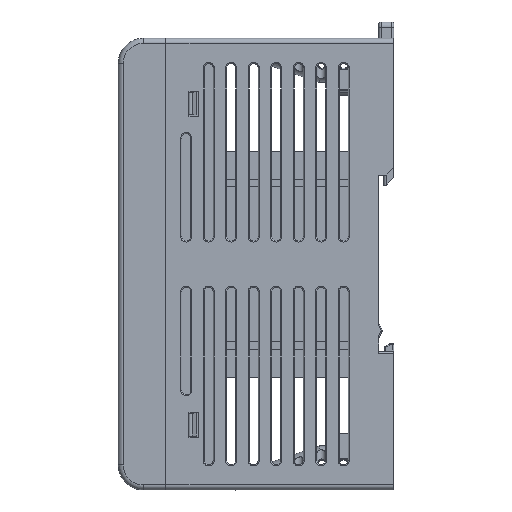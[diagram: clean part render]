
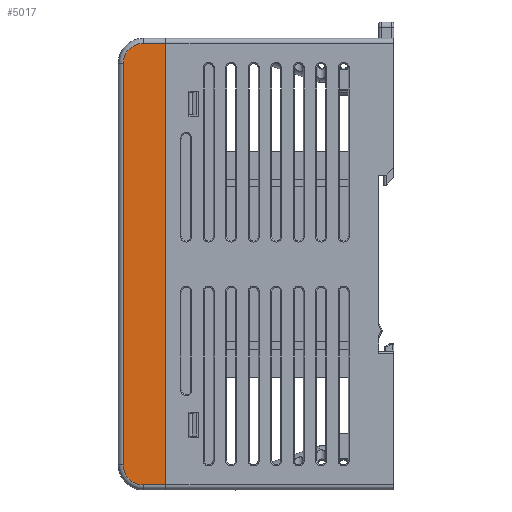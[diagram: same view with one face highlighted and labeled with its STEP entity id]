
A CAD part, left-side view. The second image highlights one B-rep face of the part: STEP entity #5017.
In plain terms, the highlighted planar face has unit normal (-1, 0, 0).
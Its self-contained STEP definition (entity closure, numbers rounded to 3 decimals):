
#52=DIRECTION('',(0.,0.,1.));
#53=VECTOR('',#52,88.);
#54=CARTESIAN_POINT('',(-12.5,0.,-44.));
#55=LINE('',#54,#53);
#202=DIRECTION('',(0.,-1.,0.));
#203=VECTOR('',#202,4.4);
#204=CARTESIAN_POINT('',(-12.5,4.4,-44.));
#205=LINE('',#204,#203);
#209=CARTESIAN_POINT('',(-12.5,4.4,-40.));
#210=DIRECTION('',(-1.,0.,0.));
#211=DIRECTION('',(0.,1.,0.));
#212=AXIS2_PLACEMENT_3D('',#209,#210,#211);
#217=DIRECTION('',(0.,0.,-1.));
#218=VECTOR('',#217,80.);
#219=CARTESIAN_POINT('',(-12.5,8.4,40.));
#220=LINE('',#219,#218);
#224=CARTESIAN_POINT('',(-12.5,4.4,40.));
#225=DIRECTION('',(-1.,0.,0.));
#226=DIRECTION('',(0.,0.,1.));
#227=AXIS2_PLACEMENT_3D('',#224,#225,#226);
#232=DIRECTION('',(0.,1.,0.));
#233=VECTOR('',#232,4.4);
#234=CARTESIAN_POINT('',(-12.5,0.,44.));
#235=LINE('',#234,#233);
#4379=CARTESIAN_POINT('',(-12.5,0.,-44.));
#4381=VERTEX_POINT('',#4379);
#4385=CARTESIAN_POINT('',(-12.5,4.4,-44.));
#4386=VERTEX_POINT('',#4385);
#4387=CARTESIAN_POINT('',(-12.5,8.4,-40.));
#4388=VERTEX_POINT('',#4387);
#4391=CARTESIAN_POINT('',(-12.5,8.4,40.));
#4392=VERTEX_POINT('',#4391);
#4395=CARTESIAN_POINT('',(-12.5,4.4,44.));
#4396=VERTEX_POINT('',#4395);
#4400=CARTESIAN_POINT('',(-12.5,0.,44.));
#4402=VERTEX_POINT('',#4400);
#5000=CARTESIAN_POINT('',(-12.5,0.,-45.));
#5001=DIRECTION('',(-1.,0.,0.));
#5002=DIRECTION('',(0.,0.,1.));
#5003=AXIS2_PLACEMENT_3D('',#5000,#5001,#5002);
#5004=PLANE('',#5003);
#5005=ORIENTED_EDGE('',*,*,#4925,.F.);
#5007=ORIENTED_EDGE('',*,*,#5006,.F.);
#5009=ORIENTED_EDGE('',*,*,#5008,.F.);
#5011=ORIENTED_EDGE('',*,*,#5010,.F.);
#5013=ORIENTED_EDGE('',*,*,#5012,.F.);
#5014=ORIENTED_EDGE('',*,*,#4936,.F.);
#5015=EDGE_LOOP('',(#5005,#5007,#5009,#5011,#5013,#5014));
#5016=FACE_OUTER_BOUND('',#5015,.F.);
#5017=ADVANCED_FACE('',(#5016),#5004,.T.);
#213=CIRCLE('',#212,4.);
#228=CIRCLE('',#227,4.);
#4925=EDGE_CURVE('',#4386,#4381,#205,.T.);
#4936=EDGE_CURVE('',#4381,#4402,#55,.T.);
#5006=EDGE_CURVE('',#4388,#4386,#213,.T.);
#5008=EDGE_CURVE('',#4392,#4388,#220,.T.);
#5010=EDGE_CURVE('',#4396,#4392,#228,.T.);
#5012=EDGE_CURVE('',#4402,#4396,#235,.T.);
